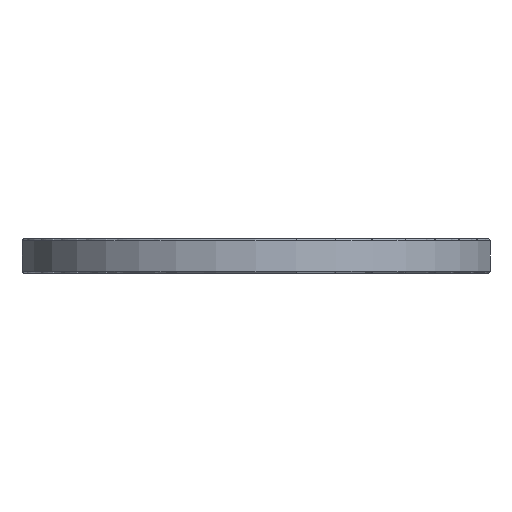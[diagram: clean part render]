
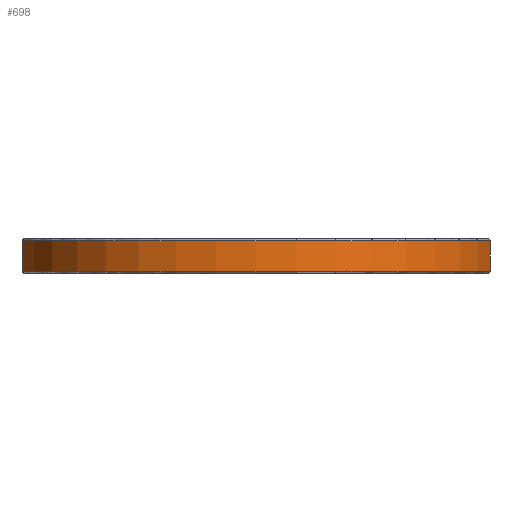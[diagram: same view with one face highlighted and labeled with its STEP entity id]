
A CAD part, front view. The second image highlights one B-rep face of the part: STEP entity #698.
In plain terms, the highlighted cylindrical face has radius 88.9 mm (diameter 177.8 mm), a partial arc.
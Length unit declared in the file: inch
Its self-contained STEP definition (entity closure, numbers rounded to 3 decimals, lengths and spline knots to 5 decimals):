
#432 = ORIENTED_EDGE ( 'NONE', *, *, #2740, .T. ) ;
#558 = EDGE_CURVE ( 'NONE', #2713, #665, #1847, .T. ) ;
#611 = ORIENTED_EDGE ( 'NONE', *, *, #2704, .T. ) ;
#612 = EDGE_CURVE ( 'NONE', #665, #614, #1896, .T. ) ;
#614 = VERTEX_POINT ( 'NONE', #1892 ) ;
#623 = ORIENTED_EDGE ( 'NONE', *, *, #558, .T. ) ;
#665 = VERTEX_POINT ( 'NONE', #1999 ) ;
#698 = ADVANCED_FACE ( 'NONE', ( #2057 ), #2056, .T. ) ;
#699 = EDGE_LOOP ( 'NONE', ( #700, #611, #432, #623 ) ) ;
#700 = ORIENTED_EDGE ( 'NONE', *, *, #612, .T. ) ;
#1844 = DIRECTION ( 'NONE',  ( 1., 0., 0. ) ) ;
#1845 = DIRECTION ( 'NONE',  ( 0., 0., -1. ) ) ;
#1846 = AXIS2_PLACEMENT_3D ( 'NONE', #1856, #1845, #1844 ) ;
#1847 = CIRCLE ( 'NONE', #1846, 3.5 ) ;
#1856 = CARTESIAN_POINT ( 'NONE',  ( 0., 0., 0.47 ) ) ;
#1892 = CARTESIAN_POINT ( 'NONE',  ( -3.4187, -0.75, 0.03 ) ) ;
#1893 = DIRECTION ( 'NONE',  ( 0., 0., -1. ) ) ;
#1894 = VECTOR ( 'NONE', #1893, 39.37008 ) ;
#1895 = CARTESIAN_POINT ( 'NONE',  ( -3.4187, -0.75, 0.5 ) ) ;
#1896 = LINE ( 'NONE', #1895, #1894 ) ;
#1999 = CARTESIAN_POINT ( 'NONE',  ( -3.4187, -0.75, 0.47 ) ) ;
#2052 = DIRECTION ( 'NONE',  ( -1., 0., 0. ) ) ;
#2053 = DIRECTION ( 'NONE',  ( 0., 0., -1. ) ) ;
#2054 = CARTESIAN_POINT ( 'NONE',  ( 0., 0., 0.5 ) ) ;
#2055 = AXIS2_PLACEMENT_3D ( 'NONE', #2054, #2053, #2052 ) ;
#2056 = CYLINDRICAL_SURFACE ( 'NONE', #2055, 3.5 ) ;
#2057 = FACE_OUTER_BOUND ( 'NONE', #699, .T. ) ;
#2499 = CARTESIAN_POINT ( 'NONE',  ( 3.4187, -0.75, 0.47 ) ) ;
#2505 = DIRECTION ( 'NONE',  ( 1., 0., 0. ) ) ;
#2506 = DIRECTION ( 'NONE',  ( 0., 0., 1. ) ) ;
#2507 = CARTESIAN_POINT ( 'NONE',  ( 0., 0., 0.03 ) ) ;
#2508 = AXIS2_PLACEMENT_3D ( 'NONE', #2507, #2506, #2505 ) ;
#2509 = CIRCLE ( 'NONE', #2508, 3.5 ) ;
#2510 = CARTESIAN_POINT ( 'NONE',  ( 3.4187, -0.75, 0.03 ) ) ;
#2511 = CARTESIAN_POINT ( 'NONE',  ( 3.4187, -0.75, 0.5 ) ) ;
#2512 = LINE ( 'NONE', #2511, #2571 ) ;
#2570 = DIRECTION ( 'NONE',  ( 0., 0., 1. ) ) ;
#2571 = VECTOR ( 'NONE', #2570, 39.37008 ) ;
#2704 = EDGE_CURVE ( 'NONE', #614, #2705, #2509, .T. ) ;
#2705 = VERTEX_POINT ( 'NONE', #2510 ) ;
#2713 = VERTEX_POINT ( 'NONE', #2499 ) ;
#2740 = EDGE_CURVE ( 'NONE', #2705, #2713, #2512, .T. ) ;
